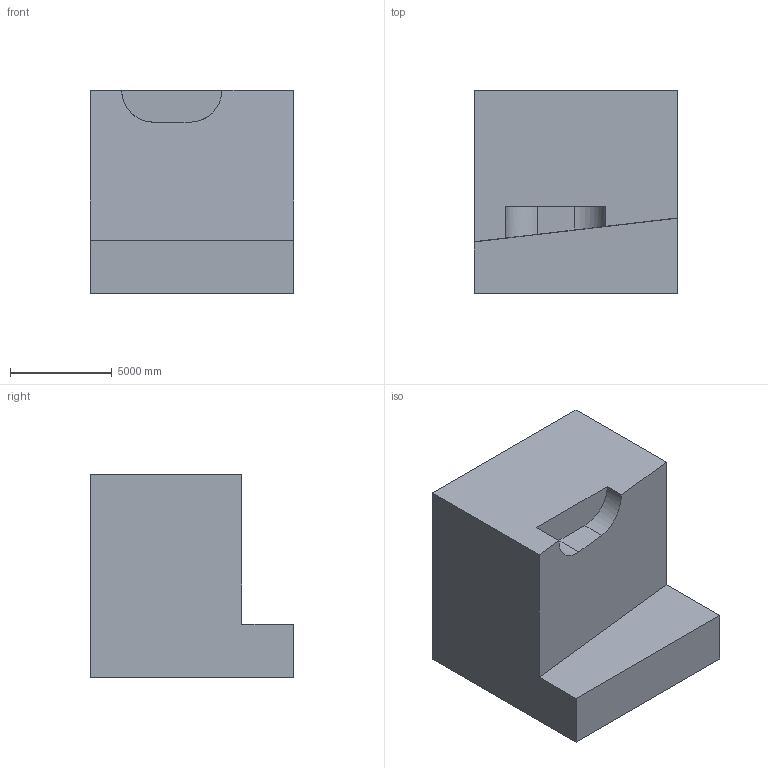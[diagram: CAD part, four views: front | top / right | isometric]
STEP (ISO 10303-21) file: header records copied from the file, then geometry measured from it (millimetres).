
FILE_DESCRIPTION (( 'STEP AP203' ), '1' );
FILE_NAME ('197.STEP', '2022-07-28T13:52:30', ( 'user' ), ( '' ), 'SwSTEP 2.0', 'SolidWorks 2021', '' );
FILE_SCHEMA (( 'CONFIG_CONTROL_DESIGN' ));
Length unit declared in the file: centimetre
Products named in the file (1): 197
Bounding box: 10000 x 10000 x 10000 mm (x, y, z)
Volume: 760477891527.2 mm3; surface area: 556534438.3 mm2
Topology: 1 solids, 1 shells, 12 faces, 30 edges, 20 vertices
Faces by surface type: plane 10, cylinder 2
Entity records: 433 total; most frequent: CARTESIAN_POINT 69, ORIENTED_EDGE 60, DIRECTION 56, EDGE_CURVE 30, VECTOR 26, LINE 26, VERTEX_POINT 20, AXIS2_PLACEMENT_3D 15
